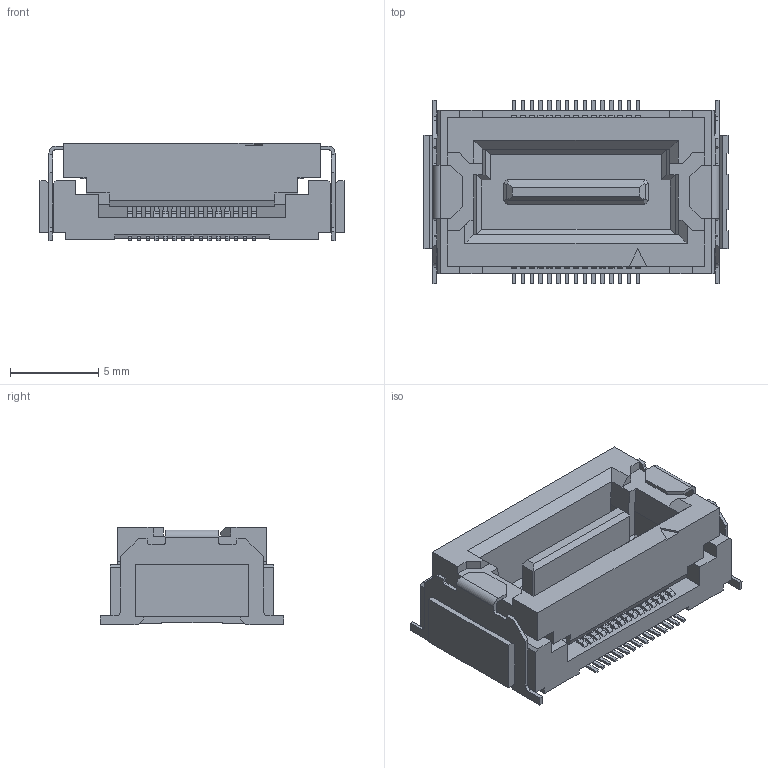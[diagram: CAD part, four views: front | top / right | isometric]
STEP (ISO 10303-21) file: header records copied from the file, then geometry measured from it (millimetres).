
FILE_DESCRIPTION(('Creo Elements/Direct Modeling STEP Export'),'2;1');
FILE_NAME('DT00-030S-T.stp','2017-08-08T19:39:17',(''),(''),'Creo Elements/Direct Modeling STEP processor for AP214 (Solid Model)','Creo Elements/Direct Modeling 19.0F 14-Feb-2017 (C) Parametric Technology GmbH','');
FILE_SCHEMA(('AUTOMOTIVE_DESIGN { 1 0 10303 214 1 1 1 1 }'));
Length unit declared in the file: millimetre
Products named in the file (2): DT00-030S-T
Assembly tree (1 placements, depth 2):
  DT00-030S-T
    DT00-030S-T
Bounding box: 17.2 x 10.38 x 5.5 mm (x, y, z)
Volume: 517.8 mm3; surface area: 1109.1 mm2
Topology: 1 solids, 1 shells, 1062 faces, 2943 edges, 1914 vertices
Faces by surface type: plane 866, cylinder 196
Entity records: 33101 total; most frequent: ORIENTED_EDGE 5886, CARTESIAN_POINT 5795, DIRECTION 5270, EDGE_CURVE 2943, VECTOR 2492, LINE 2492, VERTEX_POINT 1914, AXIS2_PLACEMENT_3D 1389
